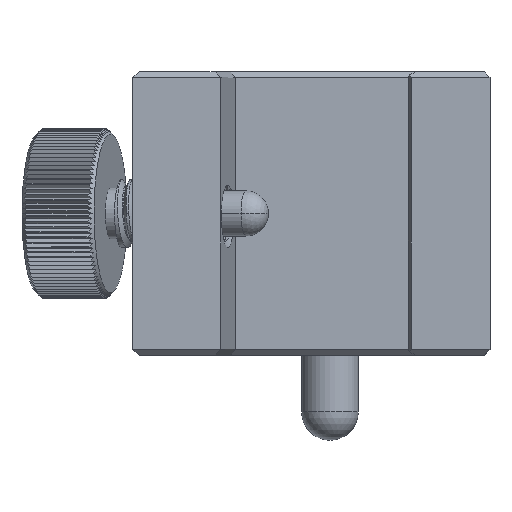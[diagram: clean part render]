
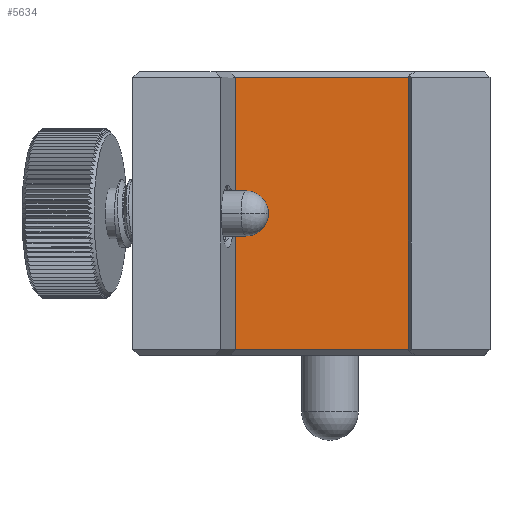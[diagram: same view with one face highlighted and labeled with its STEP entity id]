
A CAD part, top view. The second image highlights one B-rep face of the part: STEP entity #5634.
In plain terms, the highlighted planar face has unit normal (0, 0, 1).
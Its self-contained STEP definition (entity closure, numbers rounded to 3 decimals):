
#1683=DIRECTION('',(-1.,0.,0.));
#1684=VECTOR('',#1683,19.077);
#1685=CARTESIAN_POINT('',(10.077,-2997.5,-9.5));
#1686=LINE('',#1685,#1684);
#1707=DIRECTION('',(1.,0.,0.));
#1708=VECTOR('',#1707,19.077);
#1709=CARTESIAN_POINT('',(-9.,-3021.5,-9.5));
#1710=LINE('',#1709,#1708);
#1719=DIRECTION('',(0.,-1.,0.));
#1720=VECTOR('',#1719,24.);
#1721=CARTESIAN_POINT('',(10.077,-2997.5,-9.5));
#1722=LINE('',#1721,#1720);
#1765=DIRECTION('',(0.,1.,0.));
#1766=VECTOR('',#1765,24.);
#1767=CARTESIAN_POINT('',(-9.,-3021.5,-9.5));
#1768=LINE('',#1767,#1766);
#2941=CARTESIAN_POINT('',(-9.,-3021.5,-9.5));
#2943=VERTEX_POINT('',#2941);
#2978=CARTESIAN_POINT('',(-9.,-2997.5,-9.5));
#2980=VERTEX_POINT('',#2978);
#3114=CARTESIAN_POINT('',(10.077,-3021.5,-9.5));
#3115=VERTEX_POINT('',#3114);
#3116=CARTESIAN_POINT('',(10.077,-2997.5,-9.5));
#3118=VERTEX_POINT('',#3116);
#5622=CARTESIAN_POINT('',(9.5,-3022.,-9.5));
#5623=DIRECTION('',(0.,0.,1.));
#5624=DIRECTION('',(-1.,0.,0.));
#5625=AXIS2_PLACEMENT_3D('',#5622,#5623,#5624);
#5626=PLANE('',#5625);
#5627=ORIENTED_EDGE('',*,*,#5613,.F.);
#5629=ORIENTED_EDGE('',*,*,#5628,.T.);
#5630=ORIENTED_EDGE('',*,*,#5558,.F.);
#5631=ORIENTED_EDGE('',*,*,#5586,.T.);
#5632=EDGE_LOOP('',(#5627,#5629,#5630,#5631));
#5633=FACE_OUTER_BOUND('',#5632,.F.);
#5634=ADVANCED_FACE('',(#5633),#5626,.T.);
#5558=EDGE_CURVE('',#3118,#2980,#1686,.T.);
#5586=EDGE_CURVE('',#3118,#3115,#1722,.T.);
#5613=EDGE_CURVE('',#2943,#3115,#1710,.T.);
#5628=EDGE_CURVE('',#2943,#2980,#1768,.T.);
